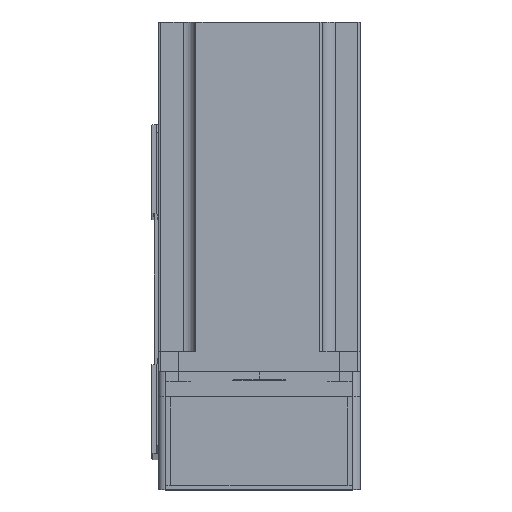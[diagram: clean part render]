
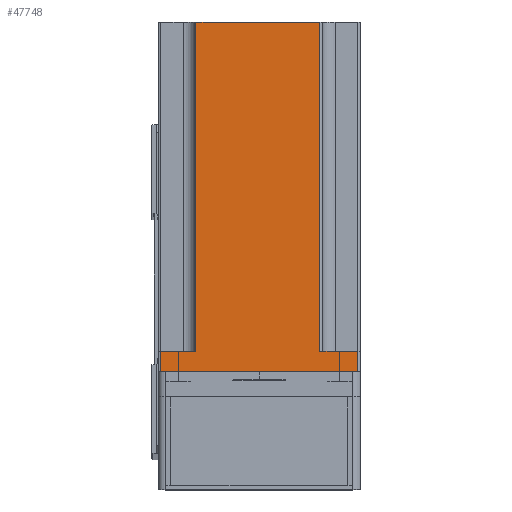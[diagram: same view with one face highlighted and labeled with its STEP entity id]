
A CAD part, top view. The second image highlights one B-rep face of the part: STEP entity #47748.
In plain terms, the highlighted planar face has unit normal (0, 0, 1) as drawn and (-1, 0, 0) by its records, which use the part's own axes.
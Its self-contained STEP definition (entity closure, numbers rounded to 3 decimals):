
#1520 = CARTESIAN_POINT ( 'NONE',  ( -40., -40., 0. ) ) ;
#3316 = VECTOR ( 'NONE', #13040, 1000. ) ;
#3521 = LINE ( 'NONE', #1520, #12219 ) ;
#3556 = VERTEX_POINT ( 'NONE', #53303 ) ;
#3924 = CARTESIAN_POINT ( 'NONE',  ( -40., 25., 138.3 ) ) ;
#4127 = DIRECTION ( 'NONE',  ( 0., 0., -1. ) ) ;
#4265 = EDGE_CURVE ( 'NONE', #28850, #3556, #38563, .T. ) ;
#4901 = CARTESIAN_POINT ( 'NONE',  ( -40., -39., 0. ) ) ;
#6244 = LINE ( 'NONE', #33837, #27626 ) ;
#11253 = EDGE_CURVE ( 'NONE', #46298, #47583, #36079, .T. ) ;
#12219 = VECTOR ( 'NONE', #44176, 1000. ) ;
#13040 = DIRECTION ( 'NONE',  ( 0., -1., 0. ) ) ;
#13229 = CARTESIAN_POINT ( 'NONE',  ( -40., -40., 138.3 ) ) ;
#14467 = ORIENTED_EDGE ( 'NONE', *, *, #42596, .T. ) ;
#14505 = ORIENTED_EDGE ( 'NONE', *, *, #11253, .F. ) ;
#14607 = CARTESIAN_POINT ( 'NONE',  ( -40., -39., 138.3 ) ) ;
#14689 = DIRECTION ( 'NONE',  ( 0., 0., 1. ) ) ;
#15071 = CARTESIAN_POINT ( 'NONE',  ( -40., -40., 8. ) ) ;
#15182 = DIRECTION ( 'NONE',  ( 0., -1., 0. ) ) ;
#15782 = VERTEX_POINT ( 'NONE', #4901 ) ;
#17260 = VECTOR ( 'NONE', #15182, 1000. ) ;
#19640 = CARTESIAN_POINT ( 'NONE',  ( -40., 25., 8. ) ) ;
#19672 = LINE ( 'NONE', #31769, #39614 ) ;
#19863 = VERTEX_POINT ( 'NONE', #27641 ) ;
#19870 = VERTEX_POINT ( 'NONE', #27193 ) ;
#20456 = ORIENTED_EDGE ( 'NONE', *, *, #34323, .F. ) ;
#21232 = ORIENTED_EDGE ( 'NONE', *, *, #47070, .T. ) ;
#21329 = LINE ( 'NONE', #55367, #41249 ) ;
#21842 = CARTESIAN_POINT ( 'NONE',  ( -40., -40., 138.3 ) ) ;
#25583 = DIRECTION ( 'NONE',  ( 0., 0., 1. ) ) ;
#25629 = CARTESIAN_POINT ( 'NONE',  ( -40., -24., 8. ) ) ;
#26073 = DIRECTION ( 'NONE',  ( 0., 0., -1. ) ) ;
#26563 = VECTOR ( 'NONE', #48486, 1000. ) ;
#27193 = CARTESIAN_POINT ( 'NONE',  ( -40., 39., 0. ) ) ;
#27219 = ORIENTED_EDGE ( 'NONE', *, *, #52807, .T. ) ;
#27626 = VECTOR ( 'NONE', #4127, 1000. ) ;
#27641 = CARTESIAN_POINT ( 'NONE',  ( -40., 39., 8. ) ) ;
#28317 = EDGE_CURVE ( 'NONE', #15782, #3556, #37837, .T. ) ;
#28850 = VERTEX_POINT ( 'NONE', #25629 ) ;
#29170 = ORIENTED_EDGE ( 'NONE', *, *, #4265, .F. ) ;
#30670 = ORIENTED_EDGE ( 'NONE', *, *, #28317, .T. ) ;
#30948 = DIRECTION ( 'NONE',  ( 0., 1., 0. ) ) ;
#31769 = CARTESIAN_POINT ( 'NONE',  ( -40., 40., 8. ) ) ;
#33837 = CARTESIAN_POINT ( 'NONE',  ( -40., 39., 138.3 ) ) ;
#34313 = PLANE ( 'NONE',  #55183 ) ;
#34323 = EDGE_CURVE ( 'NONE', #54501, #46298, #37906, .T. ) ;
#36079 = LINE ( 'NONE', #13229, #3316 ) ;
#36533 = VECTOR ( 'NONE', #14689, 1000. ) ;
#37837 = LINE ( 'NONE', #14607, #36533 ) ;
#37906 = LINE ( 'NONE', #49099, #26563 ) ;
#38563 = LINE ( 'NONE', #15071, #17260 ) ;
#39614 = VECTOR ( 'NONE', #30948, 1000. ) ;
#39851 = EDGE_LOOP ( 'NONE', ( #29170, #46535, #14505, #20456, #14467, #21232, #27219, #30670 ) ) ;
#41249 = VECTOR ( 'NONE', #25583, 1000. ) ;
#42596 = EDGE_CURVE ( 'NONE', #54501, #19863, #19672, .T. ) ;
#44176 = DIRECTION ( 'NONE',  ( 0., -1., 0. ) ) ;
#44691 = EDGE_CURVE ( 'NONE', #28850, #47583, #21329, .T. ) ;
#45718 = CARTESIAN_POINT ( 'NONE',  ( -40., -24., 138.3 ) ) ;
#46298 = VERTEX_POINT ( 'NONE', #3924 ) ;
#46535 = ORIENTED_EDGE ( 'NONE', *, *, #44691, .T. ) ;
#47070 = EDGE_CURVE ( 'NONE', #19863, #19870, #6244, .T. ) ;
#47583 = VERTEX_POINT ( 'NONE', #45718 ) ;
#47748 = ADVANCED_FACE ( 'NONE', ( #48719 ), #34313, .F. ) ;
#48486 = DIRECTION ( 'NONE',  ( 0., 0., 1. ) ) ;
#48719 = FACE_OUTER_BOUND ( 'NONE', #39851, .T. ) ;
#49099 = CARTESIAN_POINT ( 'NONE',  ( -40., 25., 8. ) ) ;
#51521 = DIRECTION ( 'NONE',  ( 1., 0., 0. ) ) ;
#52807 = EDGE_CURVE ( 'NONE', #19870, #15782, #3521, .T. ) ;
#53303 = CARTESIAN_POINT ( 'NONE',  ( -40., -39., 8. ) ) ;
#54501 = VERTEX_POINT ( 'NONE', #19640 ) ;
#55183 = AXIS2_PLACEMENT_3D ( 'NONE', #21842, #51521, #26073 ) ;
#55367 = CARTESIAN_POINT ( 'NONE',  ( -40., -24., 138.3 ) ) ;
